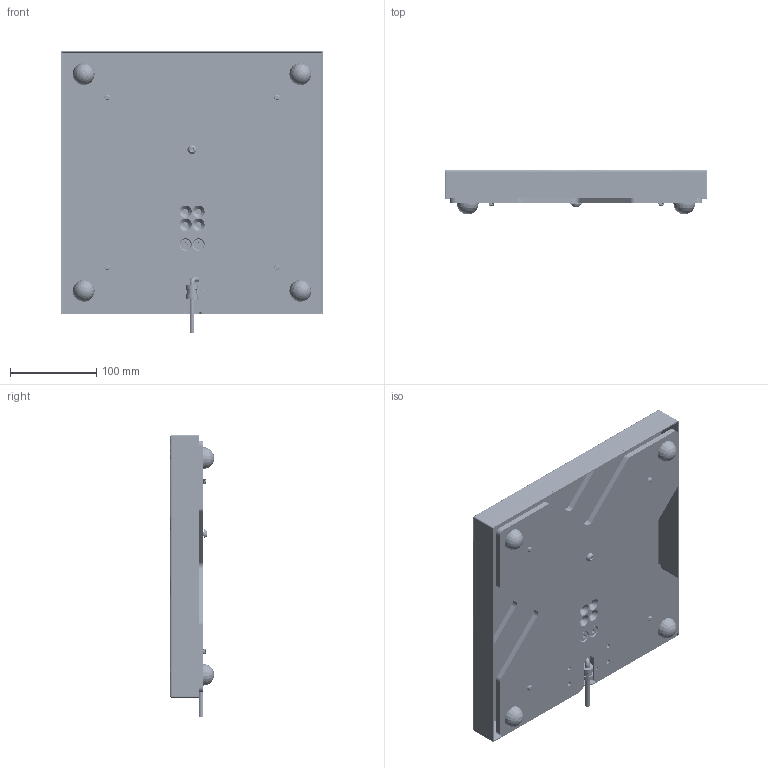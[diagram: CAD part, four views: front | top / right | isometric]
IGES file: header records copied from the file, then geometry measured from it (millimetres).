
Start section: SolidWorks IGES file using analytic representation for surfaces
Global section: file name: C:\0_Work\SolidWorks\HI BSX Series Bench Scales\HIBSX-12SS-AL22 Series.IGS; native system: SolidWorks 2020; preprocessor: SolidWorks 2020; author: vach01; date: 220210.105105; units: inch
Bounding box: 304.8 x 51.35 x 327.26 mm (x, y, z)
Surface area: 636647.4 mm2 (no closed solid volume)
Topology: 0 solids, 0 shells, 7732 faces, 58758 edges, 58732 vertices
Faces by surface type: bspline 6697, revolution 1035
